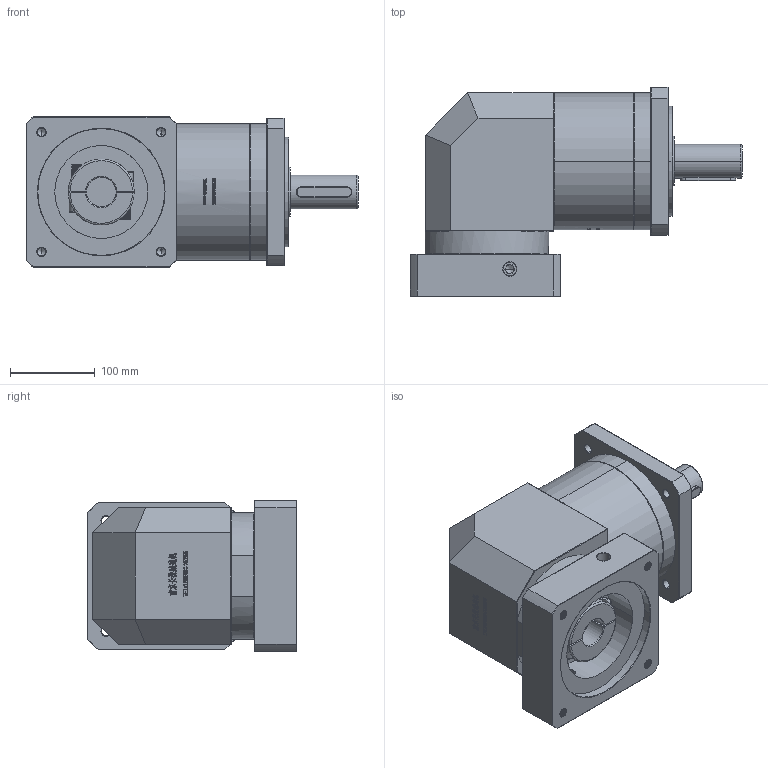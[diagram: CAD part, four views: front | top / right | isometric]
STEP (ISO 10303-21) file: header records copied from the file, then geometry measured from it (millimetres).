
FILE_DESCRIPTION (( 'STEP AP214' ), '1' );
FILE_NAME ('ZFR160A-D40-L2-35-150-200-M12.step', '2023-03-22T11:45:04', ( '' ), ( '' ), 'SwSTEP 2.0', 'SolidWorks 2016', '' );
FILE_SCHEMA (( 'AUTOMOTIVE_DESIGN' ));
Length unit declared in the file: millimetre
Products named in the file (1): ZFR160A-D40-L2-35-150-200-M12
Bounding box: 392.7 x 247.5 x 178 mm (x, y, z)
Volume: 7848725.2 mm3; surface area: 488387.3 mm2
Topology: 6 solids, 6 shells, 2501 faces, 6582 edges, 4235 vertices
Faces by surface type: plane 1273, bspline 497, cylinder 401, cone 308, torus 22
Entity records: 141892 total; most frequent: CARTESIAN_POINT 56939, ORIENTED_EDGE 13104, DIRECTION 9973, EDGE_CURVE 6552, VERTEX_POINT 4235, LINE 4145, VECTOR 4145, AXIS2_PLACEMENT_3D 2914
